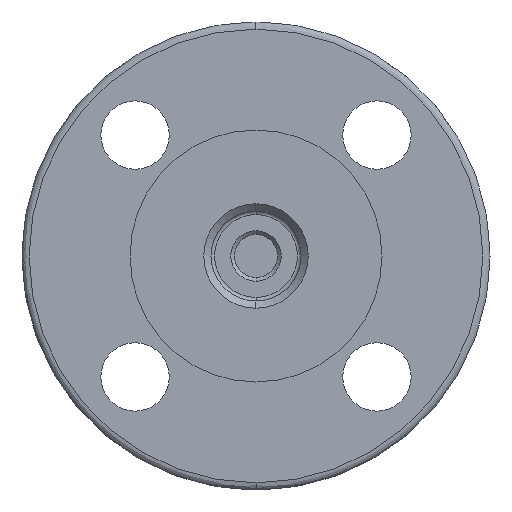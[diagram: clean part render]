
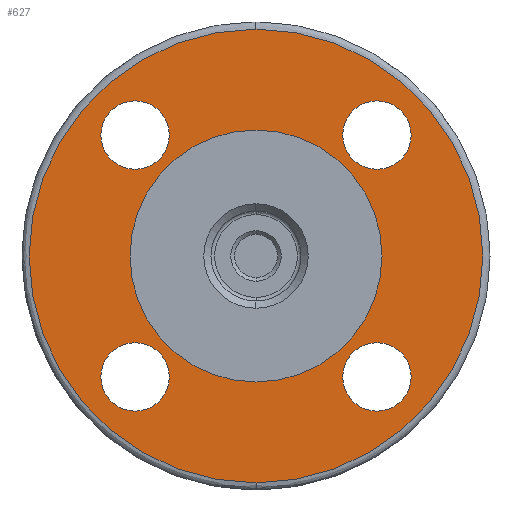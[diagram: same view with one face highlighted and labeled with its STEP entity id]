
A CAD part, left-side view. The second image highlights one B-rep face of the part: STEP entity #627.
In plain terms, the highlighted planar face has unit normal (-1, 0, 0).
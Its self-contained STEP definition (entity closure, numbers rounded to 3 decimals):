
#627=ADVANCED_FACE('',(#3287,#3288,#3289,#3290,#3291,#3292),#3286,.F.);
#3286=PLANE('',#6988);
#3287=FACE_OUTER_BOUND('',#6989,.T.);
#3288=FACE_BOUND('',#6990,.T.);
#3289=FACE_BOUND('',#6991,.T.);
#3290=FACE_BOUND('',#6992,.T.);
#3291=FACE_BOUND('',#6993,.T.);
#3292=FACE_BOUND('',#6994,.T.);
#6985=CARTESIAN_POINT('',(-71.,-119.119,73.));
#6986=DIRECTION('',(1.,0.,0.));
#6987=DIRECTION('',(0.,0.,-1.));
#6988=AXIS2_PLACEMENT_3D('',#6985,#6986,#6987);
#6989=EDGE_LOOP('',(#8785,#8786));
#6990=EDGE_LOOP('',(#8787,#8788));
#6991=EDGE_LOOP('',(#8789,#8790));
#6992=EDGE_LOOP('',(#8791,#8792));
#6993=EDGE_LOOP('',(#8793,#8794));
#6994=EDGE_LOOP('',(#8795,#8796));
#8785=ORIENTED_EDGE('',*,*,#9628,.T.);
#8786=ORIENTED_EDGE('',*,*,#9629,.T.);
#8787=ORIENTED_EDGE('',*,*,#9630,.F.);
#8788=ORIENTED_EDGE('',*,*,#9631,.F.);
#8789=ORIENTED_EDGE('',*,*,#9632,.F.);
#8790=ORIENTED_EDGE('',*,*,#9633,.F.);
#8791=ORIENTED_EDGE('',*,*,#9634,.F.);
#8792=ORIENTED_EDGE('',*,*,#9635,.F.);
#8793=ORIENTED_EDGE('',*,*,#9636,.F.);
#8794=ORIENTED_EDGE('',*,*,#9637,.F.);
#8795=ORIENTED_EDGE('',*,*,#9638,.F.);
#8796=ORIENTED_EDGE('',*,*,#9639,.F.);
#9628=EDGE_CURVE('',#13513,#13514,#13515,.T.);
#9629=EDGE_CURVE('',#13514,#13513,#13521,.T.);
#9630=EDGE_CURVE('',#13527,#13528,#13529,.T.);
#9631=EDGE_CURVE('',#13528,#13527,#13535,.T.);
#9632=EDGE_CURVE('',#13541,#13542,#13543,.T.);
#9633=EDGE_CURVE('',#13542,#13541,#13549,.T.);
#9634=EDGE_CURVE('',#13555,#13556,#13557,.T.);
#9635=EDGE_CURVE('',#13556,#13555,#13563,.T.);
#9636=EDGE_CURVE('',#13569,#13570,#13571,.T.);
#9637=EDGE_CURVE('',#13570,#13569,#13577,.T.);
#9638=EDGE_CURVE('',#13583,#13584,#13585,.T.);
#9639=EDGE_CURVE('',#13584,#13583,#13591,.T.);
#13513=VERTEX_POINT('',#17302);
#13514=VERTEX_POINT('',#17303);
#13515=CIRCLE('',#17307,63.);
#13521=CIRCLE('',#17311,63.);
#13527=VERTEX_POINT('',#17312);
#13528=VERTEX_POINT('',#17313);
#13529=CIRCLE('',#17317,9.5);
#13535=CIRCLE('',#17321,9.5);
#13541=VERTEX_POINT('',#17322);
#13542=VERTEX_POINT('',#17323);
#13543=CIRCLE('',#17327,35.);
#13549=CIRCLE('',#17331,35.);
#13555=VERTEX_POINT('',#17332);
#13556=VERTEX_POINT('',#17333);
#13557=CIRCLE('',#17337,9.5);
#13563=CIRCLE('',#17341,9.5);
#13569=VERTEX_POINT('',#17342);
#13570=VERTEX_POINT('',#17343);
#13571=CIRCLE('',#17347,9.5);
#13577=CIRCLE('',#17351,9.5);
#13583=VERTEX_POINT('',#17352);
#13584=VERTEX_POINT('',#17353);
#13585=CIRCLE('',#17357,9.5);
#13591=CIRCLE('',#17361,9.5);
#17302=CARTESIAN_POINT('',(-71.,0.,63.));
#17303=CARTESIAN_POINT('',(-71.,0.,-63.));
#17304=CARTESIAN_POINT('',(-71.,0.,0.));
#17305=DIRECTION('',(-1.,0.,0.));
#17306=DIRECTION('',(0.,0.,1.));
#17307=AXIS2_PLACEMENT_3D('',#17304,#17305,#17306);
#17308=CARTESIAN_POINT('',(-71.,0.,0.));
#17309=DIRECTION('',(-1.,0.,0.));
#17310=DIRECTION('',(0.,0.,1.));
#17311=AXIS2_PLACEMENT_3D('',#17308,#17309,#17310);
#17312=CARTESIAN_POINT('',(-71.,33.588,43.088));
#17313=CARTESIAN_POINT('',(-71.,33.588,24.088));
#17314=CARTESIAN_POINT('',(-71.,33.588,33.588));
#17315=DIRECTION('',(-1.,0.,0.));
#17316=DIRECTION('',(0.,0.,-1.));
#17317=AXIS2_PLACEMENT_3D('',#17314,#17315,#17316);
#17318=CARTESIAN_POINT('',(-71.,33.588,33.588));
#17319=DIRECTION('',(-1.,0.,0.));
#17320=DIRECTION('',(0.,0.,-1.));
#17321=AXIS2_PLACEMENT_3D('',#17318,#17319,#17320);
#17322=CARTESIAN_POINT('',(-71.,0.,-35.));
#17323=CARTESIAN_POINT('',(-71.,0.,35.));
#17324=CARTESIAN_POINT('',(-71.,0.,0.));
#17325=DIRECTION('',(-1.,0.,0.));
#17326=DIRECTION('',(0.,0.,1.));
#17327=AXIS2_PLACEMENT_3D('',#17324,#17325,#17326);
#17328=CARTESIAN_POINT('',(-71.,0.,0.));
#17329=DIRECTION('',(-1.,0.,0.));
#17330=DIRECTION('',(0.,0.,1.));
#17331=AXIS2_PLACEMENT_3D('',#17328,#17329,#17330);
#17332=CARTESIAN_POINT('',(-71.,-33.588,-24.088));
#17333=CARTESIAN_POINT('',(-71.,-33.588,-43.088));
#17334=CARTESIAN_POINT('',(-71.,-33.588,-33.588));
#17335=DIRECTION('',(-1.,0.,0.));
#17336=DIRECTION('',(0.,0.,-1.));
#17337=AXIS2_PLACEMENT_3D('',#17334,#17335,#17336);
#17338=CARTESIAN_POINT('',(-71.,-33.588,-33.588));
#17339=DIRECTION('',(-1.,0.,0.));
#17340=DIRECTION('',(0.,0.,-1.));
#17341=AXIS2_PLACEMENT_3D('',#17338,#17339,#17340);
#17342=CARTESIAN_POINT('',(-71.,33.588,-24.088));
#17343=CARTESIAN_POINT('',(-71.,33.588,-43.088));
#17344=CARTESIAN_POINT('',(-71.,33.588,-33.588));
#17345=DIRECTION('',(-1.,0.,0.));
#17346=DIRECTION('',(0.,0.,-1.));
#17347=AXIS2_PLACEMENT_3D('',#17344,#17345,#17346);
#17348=CARTESIAN_POINT('',(-71.,33.588,-33.588));
#17349=DIRECTION('',(-1.,0.,0.));
#17350=DIRECTION('',(0.,0.,-1.));
#17351=AXIS2_PLACEMENT_3D('',#17348,#17349,#17350);
#17352=CARTESIAN_POINT('',(-71.,-33.588,43.088));
#17353=CARTESIAN_POINT('',(-71.,-33.588,24.088));
#17354=CARTESIAN_POINT('',(-71.,-33.588,33.588));
#17355=DIRECTION('',(-1.,0.,0.));
#17356=DIRECTION('',(0.,0.,-1.));
#17357=AXIS2_PLACEMENT_3D('',#17354,#17355,#17356);
#17358=CARTESIAN_POINT('',(-71.,-33.588,33.588));
#17359=DIRECTION('',(-1.,0.,0.));
#17360=DIRECTION('',(0.,0.,-1.));
#17361=AXIS2_PLACEMENT_3D('',#17358,#17359,#17360);
